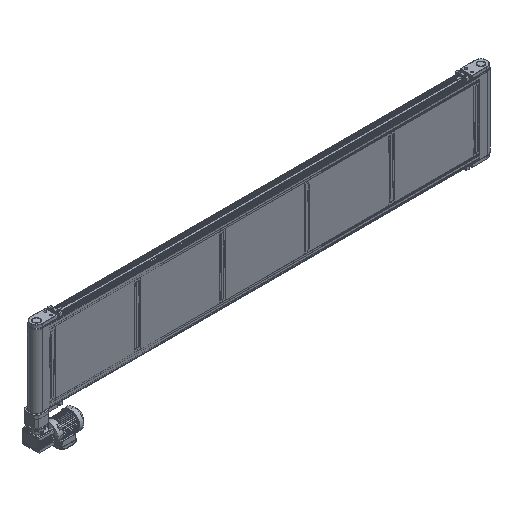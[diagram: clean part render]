
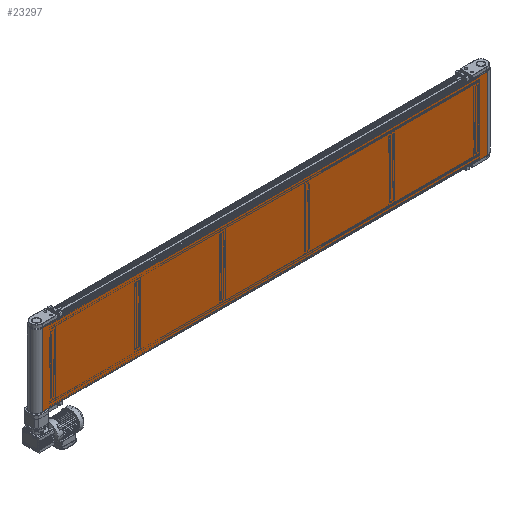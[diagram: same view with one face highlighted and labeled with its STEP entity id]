
A CAD part, isometric view. The second image highlights one B-rep face of the part: STEP entity #23297.
In plain terms, the highlighted planar face has unit normal (0, -1, 0).
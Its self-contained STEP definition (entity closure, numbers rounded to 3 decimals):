
#23297=ADVANCED_FACE('',(#48221),#48222,.F.);
#48221=FACE_OUTER_BOUND('',#60943,.T.);
#48222=PLANE('',#60944);
#60943=EDGE_LOOP('',(#93602,#93603,#93604,#93605));
#60944=AXIS2_PLACEMENT_3D('',#93606,#93607,#93608);
#93602=ORIENTED_EDGE('',*,*,#117026,.F.);
#93603=ORIENTED_EDGE('',*,*,#117027,.F.);
#93604=ORIENTED_EDGE('',*,*,#117021,.F.);
#93605=ORIENTED_EDGE('',*,*,#117023,.F.);
#93606=CARTESIAN_POINT('',(1450.0,-23.5,-230.0));
#93607=DIRECTION('',(0.0,1.0,0.0));
#93608=DIRECTION('',(0.0,0.0,1.0));
#117021=EDGE_CURVE('',#138017,#138019,#138020,.T.);
#117023=EDGE_CURVE('',#138022,#138017,#138023,.T.);
#117026=EDGE_CURVE('',#138026,#138022,#138027,.T.);
#117027=EDGE_CURVE('',#138019,#138026,#138028,.T.);
#138017=VERTEX_POINT('',#154275);
#138019=VERTEX_POINT('',#154277);
#138020=LINE('',#154278,#154279);
#138022=VERTEX_POINT('',#154281);
#138023=LINE('',#154282,#154283);
#138026=VERTEX_POINT('',#154287);
#138027=LINE('',#154288,#154289);
#138028=LINE('',#154290,#154291);
#154275=CARTESIAN_POINT('',(2950.0,-23.5,15.0));
#154277=CARTESIAN_POINT('',(2950.0,-23.5,-475.0));
#154278=CARTESIAN_POINT('',(2950.0,-23.5,-230.0));
#154279=VECTOR('',#166136,1.0);
#154281=CARTESIAN_POINT('',(-50.0,-23.5,15.0));
#154282=CARTESIAN_POINT('',(1450.0,-23.5,15.0));
#154283=VECTOR('',#166140,1.0);
#154287=CARTESIAN_POINT('',(-50.0,-23.5,-475.0));
#154288=CARTESIAN_POINT('',(-50.0,-23.5,-230.0));
#154289=VECTOR('',#166145,1.0);
#154290=CARTESIAN_POINT('',(1450.0,-23.5,-475.0));
#154291=VECTOR('',#166146,1.0);
#166136=DIRECTION('',(0.0,0.0,-1.0));
#166140=DIRECTION('',(1.0,0.0,0.0));
#166145=DIRECTION('',(0.0,0.0,1.0));
#166146=DIRECTION('',(-1.0,0.0,0.0));
